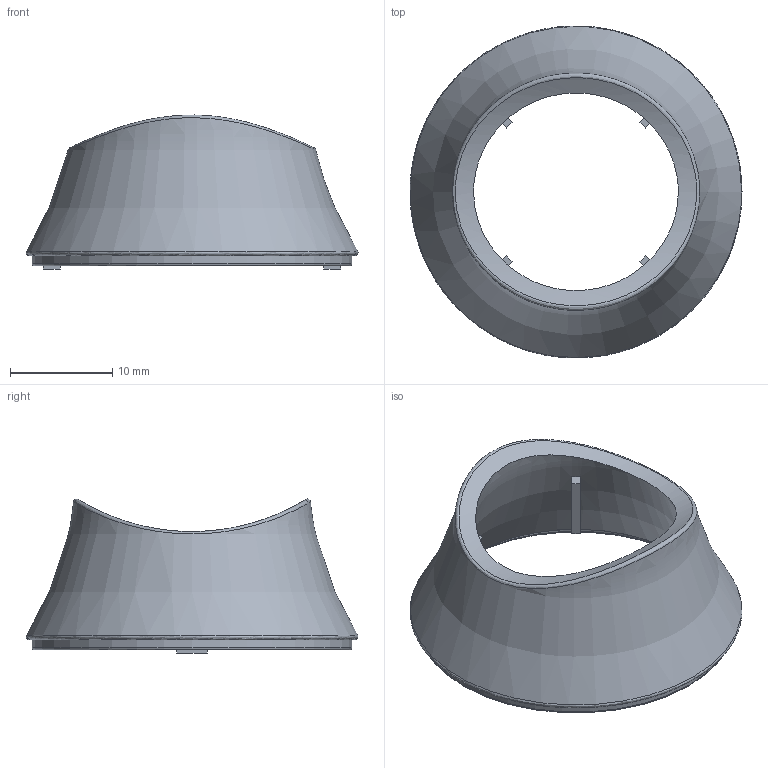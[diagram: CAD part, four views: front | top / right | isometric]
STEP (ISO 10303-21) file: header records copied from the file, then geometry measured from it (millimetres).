
FILE_DESCRIPTION(('Open CASCADE Model'),'2;1');
FILE_NAME('Open CASCADE Shape Model','2026-11-01T16:32:08',('Author'),( 'Open CASCADE'),'Open CASCADE STEP processor 8.0','build123d', 'Unknown');
FILE_SCHEMA(('AUTOMOTIVE_DESIGN { 1 0 10303 214 1 1 1 1 }'));
Length unit declared in the file: millimetre
Products named in the file (1): SOLID
Bounding box: 32.52 x 32.52 x 15.09 mm (x, y, z)
Volume: 2152.4 mm3; surface area: 2695.6 mm2
Topology: 1 solids, 1 shells, 50 faces, 122 edges, 80 vertices
Faces by surface type: plane 39, bspline 4, cylinder 3, revolution 2, torus 2
Full cylindrical faces by diameter (mm): 30.1 x1, 31.3 x1
Entity records: 5765 total; most frequent: CARTESIAN_POINT 3494, DIRECTION 342, ORIENTED_EDGE 244, PCURVE 244, DEFINITIONAL_REPRESENTATION 244, LINE 230, VECTOR 230, EDGE_CURVE 122
